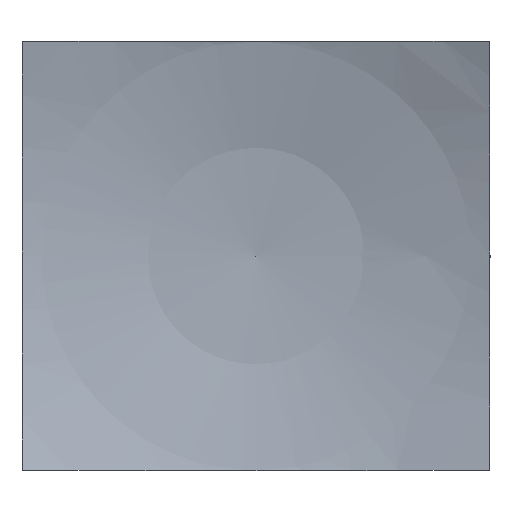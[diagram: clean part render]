
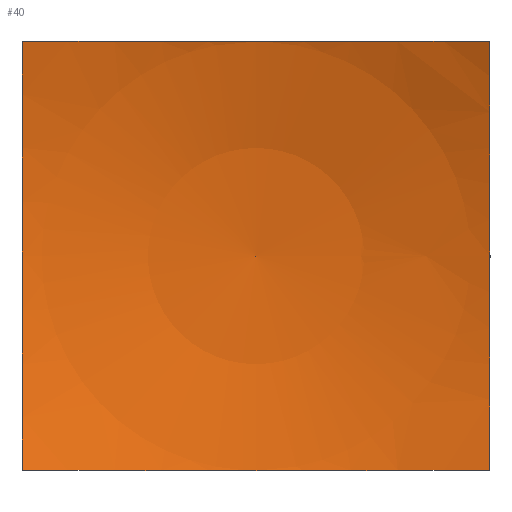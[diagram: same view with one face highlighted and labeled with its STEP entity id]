
A CAD part, top view. The second image highlights one B-rep face of the part: STEP entity #40.
In plain terms, the highlighted spherical face has radius 1103 mm.
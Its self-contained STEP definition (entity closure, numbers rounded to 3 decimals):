
#40 = ADVANCED_FACE( '', ( #74 ), #75, .F. );
#74 = FACE_OUTER_BOUND( '', #99, .T. );
#75 = SPHERICAL_SURFACE( '', #100, 1103. );
#99 = EDGE_LOOP( '', ( #143, #144, #145, #146 ) );
#100 = AXIS2_PLACEMENT_3D( '', #147, #148, #149 );
#143 = ORIENTED_EDGE( '', *, *, #158, .T. );
#144 = ORIENTED_EDGE( '', *, *, #154, .T. );
#145 = ORIENTED_EDGE( '', *, *, #165, .T. );
#146 = ORIENTED_EDGE( '', *, *, #162, .T. );
#147 = CARTESIAN_POINT( '', ( 0., 0., 1103. ) );
#148 = DIRECTION( '', ( 0., 0., 1. ) );
#149 = DIRECTION( '', ( 1., 0., 0. ) );
#154 = EDGE_CURVE( '', #169, #174, #176, .F. );
#158 = EDGE_CURVE( '', #178, #169, #182, .F. );
#162 = EDGE_CURVE( '', #184, #178, #188, .F. );
#165 = EDGE_CURVE( '', #174, #184, #191, .F. );
#169 = VERTEX_POINT( '', #195 );
#174 = VERTEX_POINT( '', #201 );
#176 = CIRCLE( '', #204, 1068.169 );
#178 = VERTEX_POINT( '', #206 );
#182 = CIRCLE( '', #211, 1061.418 );
#184 = VERTEX_POINT( '', #213 );
#188 = CIRCLE( '', #218, 1068.169 );
#191 = CIRCLE( '', #221, 1061.418 );
#195 = CARTESIAN_POINT( '', ( 300., 275., 77.825 ) );
#201 = CARTESIAN_POINT( '', ( -300., 275., 77.825 ) );
#204 = AXIS2_PLACEMENT_3D( '', #229, #230, #231 );
#206 = CARTESIAN_POINT( '', ( 300., -275., 77.825 ) );
#211 = AXIS2_PLACEMENT_3D( '', #236, #237, #238 );
#213 = CARTESIAN_POINT( '', ( -300., -275., 77.825 ) );
#218 = AXIS2_PLACEMENT_3D( '', #243, #244, #245 );
#221 = AXIS2_PLACEMENT_3D( '', #249, #250, #251 );
#229 = CARTESIAN_POINT( '', ( 0., 275., 1103. ) );
#230 = DIRECTION( '', ( 0., -1., 0. ) );
#231 = DIRECTION( '', ( 1., 0., 0. ) );
#236 = CARTESIAN_POINT( '', ( 300., 0., 1103. ) );
#237 = DIRECTION( '', ( -1., 0., 0. ) );
#238 = DIRECTION( '', ( 0., 0., 1. ) );
#243 = CARTESIAN_POINT( '', ( 0., -275., 1103. ) );
#244 = DIRECTION( '', ( 0., 1., 0. ) );
#245 = DIRECTION( '', ( -1., 0., 0. ) );
#249 = CARTESIAN_POINT( '', ( -300., 0., 1103. ) );
#250 = DIRECTION( '', ( 1., 0., 0. ) );
#251 = DIRECTION( '', ( 0., 1., 0. ) );
